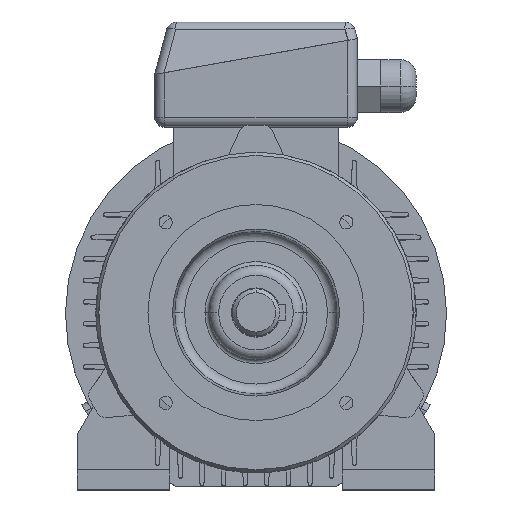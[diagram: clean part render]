
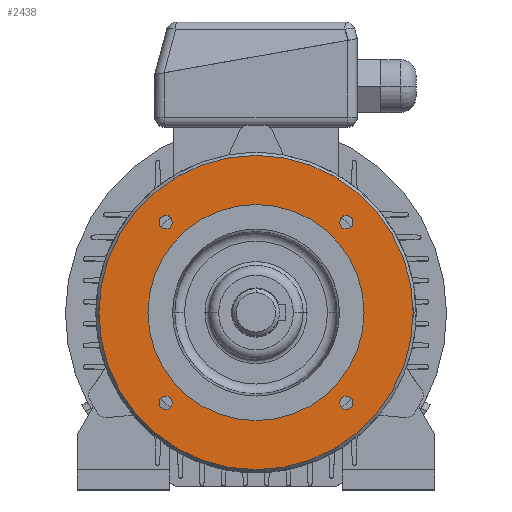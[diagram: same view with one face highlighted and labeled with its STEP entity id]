
A CAD part, top view. The second image highlights one B-rep face of the part: STEP entity #2438.
In plain terms, the highlighted planar face has unit normal (0, 0, 1).
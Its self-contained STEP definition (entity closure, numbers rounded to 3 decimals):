
#45 = EDGE_LOOP ( 'NONE', ( #26228, #25563 ) ) ;
#213 = EDGE_CURVE ( 'NONE', #4043, #25865, #9970, .T. ) ;
#351 = EDGE_CURVE ( 'NONE', #22060, #24816, #10078, .T. ) ;
#16880 = ORIENTED_EDGE ( 'NONE', *, *, #12549, .F. ) ;
#16986 = VERTEX_POINT ( 'NONE', #2164 ) ;
#758 = CARTESIAN_POINT ( 'NONE',  ( -42.562, -45.962, 40. ) ) ;
#814 = ORIENTED_EDGE ( 'NONE', *, *, #351, .T. ) ;
#17196 = CARTESIAN_POINT ( 'NONE',  ( 42.562, 45.962, 40. ) ) ;
#17535 = EDGE_CURVE ( 'NONE', #12234, #16986, #2665, .T. ) ;
#1297 = CIRCLE ( 'NONE', #1298, 80. ) ;
#1298 = AXIS2_PLACEMENT_3D ( 'NONE', #1299, #1300, #1314 ) ;
#1299 = CARTESIAN_POINT ( 'NONE',  ( 0., 0., 40. ) ) ;
#1300 = DIRECTION ( 'NONE',  ( 0., 0., -1. ) ) ;
#1314 = DIRECTION ( 'NONE',  ( -1., 0., 0. ) ) ;
#1463 = ORIENTED_EDGE ( 'NONE', *, *, #24902, .T. ) ;
#18013 = ORIENTED_EDGE ( 'NONE', *, *, #17535, .F. ) ;
#18406 = CIRCLE ( 'NONE', #18407, 3.4 ) ;
#18407 = AXIS2_PLACEMENT_3D ( 'NONE', #18408, #18409, #18424 ) ;
#18408 = CARTESIAN_POINT ( 'NONE',  ( 45.962, 45.962, 40. ) ) ;
#18409 = DIRECTION ( 'NONE',  ( 0., 0., 1. ) ) ;
#18424 = DIRECTION ( 'NONE',  ( 1., 0., 0. ) ) ;
#2116 = EDGE_LOOP ( 'NONE', ( #1463, #814 ) ) ;
#2164 = CARTESIAN_POINT ( 'NONE',  ( -49.362, 45.962, 40. ) ) ;
#2438 = ADVANCED_FACE ( 'NONE', ( #14180, #14181, #14182, #14183, #14184, #14185 ), #14186, .T. ) ;
#2665 = CIRCLE ( 'NONE', #2666, 3.4 ) ;
#2666 = AXIS2_PLACEMENT_3D ( 'NONE', #2667, #2668, #2669 ) ;
#2667 = CARTESIAN_POINT ( 'NONE',  ( -45.962, 45.962, 40. ) ) ;
#2668 = DIRECTION ( 'NONE',  ( 0., 0., 1. ) ) ;
#2669 = DIRECTION ( 'NONE',  ( 1., 0., 0. ) ) ;
#19056 = EDGE_CURVE ( 'NONE', #26352, #9203, #3988, .T. ) ;
#3988 = CIRCLE ( 'NONE', #3989, 80. ) ;
#3989 = AXIS2_PLACEMENT_3D ( 'NONE', #3990, #3991, #3992 ) ;
#3990 = CARTESIAN_POINT ( 'NONE',  ( 0., 0., 40. ) ) ;
#3991 = DIRECTION ( 'NONE',  ( 0., 0., -1. ) ) ;
#3992 = DIRECTION ( 'NONE',  ( -1., 0., 0. ) ) ;
#4043 = VERTEX_POINT ( 'NONE', #17196 ) ;
#4069 = EDGE_LOOP ( 'NONE', ( #18013, #16880 ) ) ;
#20536 = CIRCLE ( 'NONE', #20537, 3.4 ) ;
#20537 = AXIS2_PLACEMENT_3D ( 'NONE', #20538, #20539, #20540 ) ;
#20538 = CARTESIAN_POINT ( 'NONE',  ( 45.962, -45.962, 40. ) ) ;
#20539 = DIRECTION ( 'NONE',  ( 0., 0., 1. ) ) ;
#20540 = DIRECTION ( 'NONE',  ( 1., 0., 0. ) ) ;
#4246 = ORIENTED_EDGE ( 'NONE', *, *, #213, .F. ) ;
#4897 = EDGE_CURVE ( 'NONE', #25865, #4043, #18406, .T. ) ;
#21647 = CARTESIAN_POINT ( 'NONE',  ( 49.362, -45.962, 40. ) ) ;
#5365 = ORIENTED_EDGE ( 'NONE', *, *, #4897, .F. ) ;
#21845 = CIRCLE ( 'NONE', #21846, 3.4 ) ;
#21846 = AXIS2_PLACEMENT_3D ( 'NONE', #21847, #21848, #21849 ) ;
#21847 = CARTESIAN_POINT ( 'NONE',  ( 45.962, -45.962, 40. ) ) ;
#21848 = DIRECTION ( 'NONE',  ( 0., 0., 1. ) ) ;
#21849 = DIRECTION ( 'NONE',  ( 1., 0., 0. ) ) ;
#22060 = VERTEX_POINT ( 'NONE', #7717 ) ;
#6019 = EDGE_LOOP ( 'NONE', ( #5365, #4246 ) ) ;
#6327 = ORIENTED_EDGE ( 'NONE', *, *, #8064, .F. ) ;
#23330 = CARTESIAN_POINT ( 'NONE',  ( -80., 0., 40. ) ) ;
#23355 = CIRCLE ( 'NONE', #23356, 3.4 ) ;
#23356 = AXIS2_PLACEMENT_3D ( 'NONE', #23357, #23358, #23359 ) ;
#23357 = CARTESIAN_POINT ( 'NONE',  ( -45.962, -45.962, 40. ) ) ;
#23358 = DIRECTION ( 'NONE',  ( 0., 0., 1. ) ) ;
#23359 = DIRECTION ( 'NONE',  ( 1., 0., 0. ) ) ;
#6982 = EDGE_CURVE ( 'NONE', #7883, #11462, #20536, .T. ) ;
#7435 = ORIENTED_EDGE ( 'NONE', *, *, #6982, .F. ) ;
#23831 = CIRCLE ( 'NONE', #23835, 3.4 ) ;
#23835 = AXIS2_PLACEMENT_3D ( 'NONE', #23836, #23837, #23838 ) ;
#23836 = CARTESIAN_POINT ( 'NONE',  ( -45.962, -45.962, 40. ) ) ;
#23837 = DIRECTION ( 'NONE',  ( 0., 0., 1. ) ) ;
#23838 = DIRECTION ( 'NONE',  ( 1., 0., 0. ) ) ;
#7717 = CARTESIAN_POINT ( 'NONE',  ( 55., 0., 40. ) ) ;
#7883 = VERTEX_POINT ( 'NONE', #21647 ) ;
#8064 = EDGE_CURVE ( 'NONE', #11462, #7883, #21845, .T. ) ;
#8088 = EDGE_LOOP ( 'NONE', ( #7435, #6327 ) ) ;
#8398 = ORIENTED_EDGE ( 'NONE', *, *, #9685, .F. ) ;
#24816 = VERTEX_POINT ( 'NONE', #11949 ) ;
#24867 = CARTESIAN_POINT ( 'NONE',  ( 42.562, -45.962, 40. ) ) ;
#24902 = EDGE_CURVE ( 'NONE', #24816, #22060, #12070, .T. ) ;
#24929 = CARTESIAN_POINT ( 'NONE',  ( -49.362, -45.962, 40. ) ) ;
#25254 = EDGE_LOOP ( 'NONE', ( #9804, #8398 ) ) ;
#25476 = CARTESIAN_POINT ( 'NONE',  ( -42.562, 45.962, 40. ) ) ;
#25563 = ORIENTED_EDGE ( 'NONE', *, *, #19056, .F. ) ;
#9203 = VERTEX_POINT ( 'NONE', #23330 ) ;
#9268 = EDGE_CURVE ( 'NONE', #15557, #11578, #23355, .T. ) ;
#25696 = CIRCLE ( 'NONE', #25697, 3.4 ) ;
#25697 = AXIS2_PLACEMENT_3D ( 'NONE', #25698, #25699, #25700 ) ;
#25698 = CARTESIAN_POINT ( 'NONE',  ( -45.962, 45.962, 40. ) ) ;
#25699 = DIRECTION ( 'NONE',  ( 0., 0., 1. ) ) ;
#25700 = DIRECTION ( 'NONE',  ( 1., 0., 0. ) ) ;
#25865 = VERTEX_POINT ( 'NONE', #14376 ) ;
#9685 = EDGE_CURVE ( 'NONE', #11578, #15557, #23831, .T. ) ;
#9804 = ORIENTED_EDGE ( 'NONE', *, *, #9268, .F. ) ;
#26228 = ORIENTED_EDGE ( 'NONE', *, *, #16235, .F. ) ;
#26352 = VERTEX_POINT ( 'NONE', #15247 ) ;
#9970 = CIRCLE ( 'NONE', #9971, 3.4 ) ;
#9971 = AXIS2_PLACEMENT_3D ( 'NONE', #9972, #9973, #9974 ) ;
#9972 = CARTESIAN_POINT ( 'NONE',  ( 45.962, 45.962, 40. ) ) ;
#9973 = DIRECTION ( 'NONE',  ( 0., 0., 1. ) ) ;
#9974 = DIRECTION ( 'NONE',  ( 1., 0., 0. ) ) ;
#10078 = CIRCLE ( 'NONE', #10079, 55. ) ;
#10079 = AXIS2_PLACEMENT_3D ( 'NONE', #10080, #10081, #10099 ) ;
#10080 = CARTESIAN_POINT ( 'NONE',  ( 0., 0., 40. ) ) ;
#10081 = DIRECTION ( 'NONE',  ( 0., 0., -1. ) ) ;
#10099 = DIRECTION ( 'NONE',  ( -1., 0., 0. ) ) ;
#11462 = VERTEX_POINT ( 'NONE', #24867 ) ;
#11578 = VERTEX_POINT ( 'NONE', #24929 ) ;
#11949 = CARTESIAN_POINT ( 'NONE',  ( -55., 0., 40. ) ) ;
#12070 = CIRCLE ( 'NONE', #12071, 55. ) ;
#12071 = AXIS2_PLACEMENT_3D ( 'NONE', #12072, #12094, #12095 ) ;
#12072 = CARTESIAN_POINT ( 'NONE',  ( 0., 0., 40. ) ) ;
#12094 = DIRECTION ( 'NONE',  ( 0., 0., -1. ) ) ;
#12095 = DIRECTION ( 'NONE',  ( -1., 0., 0. ) ) ;
#12234 = VERTEX_POINT ( 'NONE', #25476 ) ;
#12549 = EDGE_CURVE ( 'NONE', #16986, #12234, #25696, .T. ) ;
#14180 = FACE_BOUND ( 'NONE', #2116, .T. ) ;
#14181 = FACE_OUTER_BOUND ( 'NONE', #45, .T. ) ;
#14182 = FACE_BOUND ( 'NONE', #25254, .T. ) ;
#14183 = FACE_BOUND ( 'NONE', #8088, .T. ) ;
#14184 = FACE_BOUND ( 'NONE', #6019, .T. ) ;
#14185 = FACE_BOUND ( 'NONE', #4069, .T. ) ;
#14186 = PLANE ( 'NONE',  #14187 ) ;
#14187 = AXIS2_PLACEMENT_3D ( 'NONE', #14188, #14189, #14190 ) ;
#14188 = CARTESIAN_POINT ( 'NONE',  ( -80., 0., 40. ) ) ;
#14189 = DIRECTION ( 'NONE',  ( 0., 0., 1. ) ) ;
#14190 = DIRECTION ( 'NONE',  ( 1., 0., 0. ) ) ;
#14376 = CARTESIAN_POINT ( 'NONE',  ( 49.362, 45.962, 40. ) ) ;
#15247 = CARTESIAN_POINT ( 'NONE',  ( 80., 0., 40. ) ) ;
#15557 = VERTEX_POINT ( 'NONE', #758 ) ;
#16235 = EDGE_CURVE ( 'NONE', #9203, #26352, #1297, .T. ) ;
